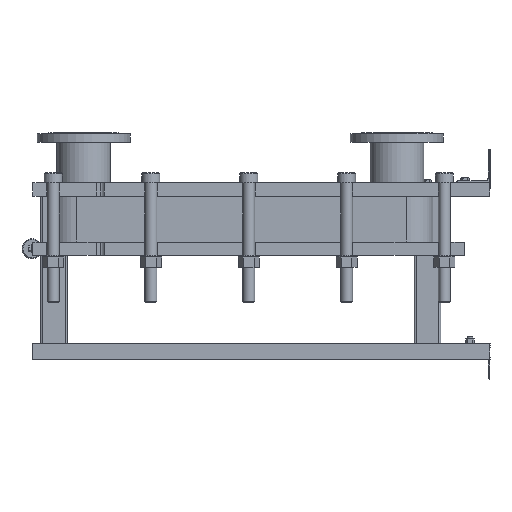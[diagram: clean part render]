
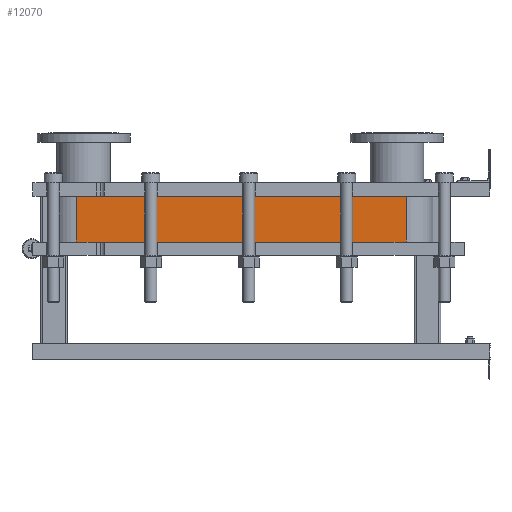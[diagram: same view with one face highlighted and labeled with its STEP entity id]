
A CAD part, left-side view. The second image highlights one B-rep face of the part: STEP entity #12070.
In plain terms, the highlighted planar face has unit normal (-1, 0, 0).
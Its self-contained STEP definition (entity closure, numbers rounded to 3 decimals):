
#1064=LINE('',#21140,#2164);
#1065=LINE('',#21144,#2165);
#1066=LINE('',#21146,#2166);
#1067=LINE('',#21147,#2167);
#2164=VECTOR('',#15790,10.);
#2165=VECTOR('',#15795,10.);
#2166=VECTOR('',#15796,10.);
#2167=VECTOR('',#15797,10.);
#3304=FACE_OUTER_BOUND('',#4091,.T.);
#4091=EDGE_LOOP('',(#9793,#9794,#9795,#9796));
#5677=VERTEX_POINT('',#21137);
#5678=VERTEX_POINT('',#21139);
#5679=VERTEX_POINT('',#21143);
#5680=VERTEX_POINT('',#21145);
#7118=EDGE_CURVE('',#5678,#5677,#1064,.T.);
#7120=EDGE_CURVE('',#5677,#5679,#1065,.T.);
#7121=EDGE_CURVE('',#5680,#5679,#1066,.T.);
#7122=EDGE_CURVE('',#5680,#5678,#1067,.T.);
#9793=ORIENTED_EDGE('',*,*,#7120,.T.);
#9794=ORIENTED_EDGE('',*,*,#7121,.F.);
#9795=ORIENTED_EDGE('',*,*,#7122,.T.);
#9796=ORIENTED_EDGE('',*,*,#7118,.T.);
#11441=PLANE('',#13191);
#12070=ADVANCED_FACE('',(#3304),#11441,.T.);
#13191=AXIS2_PLACEMENT_3D('',#21142,#15793,#15794);
#15790=DIRECTION('',(0.,0.,-1.));
#15793=DIRECTION('center_axis',(-1.,0.,0.));
#15794=DIRECTION('ref_axis',(0.,1.,0.));
#15795=DIRECTION('',(0.,-1.,0.));
#15796=DIRECTION('',(0.,0.,-1.));
#15797=DIRECTION('',(0.,1.,0.));
#21137=CARTESIAN_POINT('',(-248.152,1243.818,-138.));
#21139=CARTESIAN_POINT('',(-248.152,1243.818,0.));
#21140=CARTESIAN_POINT('',(-248.152,1243.818,0.));
#21142=CARTESIAN_POINT('Origin',(-248.152,251.818,0.));
#21143=CARTESIAN_POINT('',(-248.152,251.818,-138.));
#21144=CARTESIAN_POINT('',(-248.152,499.818,-138.));
#21145=CARTESIAN_POINT('',(-248.152,251.818,0.));
#21146=CARTESIAN_POINT('',(-248.152,251.818,0.));
#21147=CARTESIAN_POINT('',(-248.152,251.818,0.));
